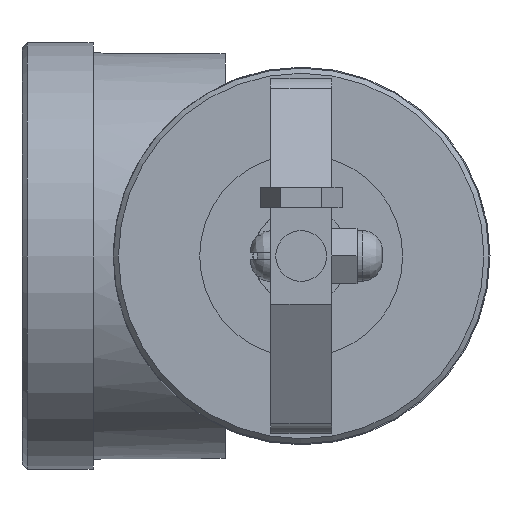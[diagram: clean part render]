
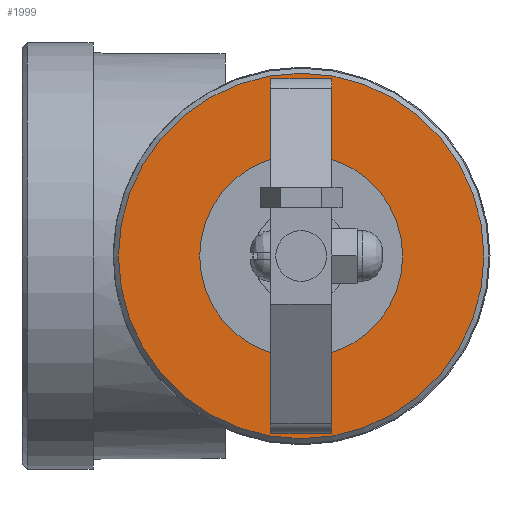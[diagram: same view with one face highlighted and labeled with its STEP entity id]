
A CAD part, front view. The second image highlights one B-rep face of the part: STEP entity #1999.
In plain terms, the highlighted planar face has unit normal (0, -1, 0).
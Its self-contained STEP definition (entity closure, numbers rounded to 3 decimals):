
#152=FACE_BOUND('',#357,.T.);
#168=PLANE('',#2138);
#243=FACE_OUTER_BOUND('',#356,.T.);
#356=EDGE_LOOP('',(#1406));
#357=EDGE_LOOP('',(#1407));
#828=CIRCLE('',#2137,18.);
#829=CIRCLE('',#2139,10.);
#908=VERTEX_POINT('',#2868);
#909=VERTEX_POINT('',#2872);
#1109=EDGE_CURVE('',#908,#908,#828,.T.);
#1110=EDGE_CURVE('',#909,#909,#829,.T.);
#1406=ORIENTED_EDGE('',*,*,#1109,.F.);
#1407=ORIENTED_EDGE('',*,*,#1110,.T.);
#1999=ADVANCED_FACE('',(#243,#152),#168,.T.);
#2137=AXIS2_PLACEMENT_3D('',#2870,#2328,#2329);
#2138=AXIS2_PLACEMENT_3D('',#2871,#2330,#2331);
#2139=AXIS2_PLACEMENT_3D('',#2873,#2332,#2333);
#2328=DIRECTION('center_axis',(0.,1.,0.));
#2329=DIRECTION('ref_axis',(0.,0.,-1.));
#2330=DIRECTION('center_axis',(0.,-1.,0.));
#2331=DIRECTION('ref_axis',(0.,0.,-1.));
#2332=DIRECTION('center_axis',(0.,1.,0.));
#2333=DIRECTION('ref_axis',(1.,0.,0.));
#2868=CARTESIAN_POINT('',(0.,5.,18.));
#2870=CARTESIAN_POINT('Origin',(0.,5.,0.));
#2871=CARTESIAN_POINT('Origin',(0.,5.,18.5));
#2872=CARTESIAN_POINT('',(0.,5.,-10.));
#2873=CARTESIAN_POINT('Origin',(0.,5.,0.));
